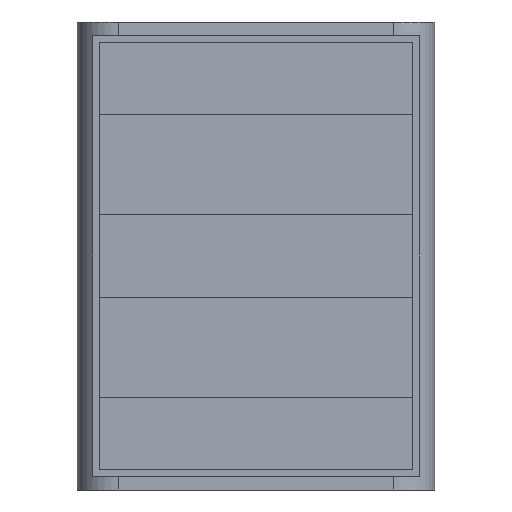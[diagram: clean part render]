
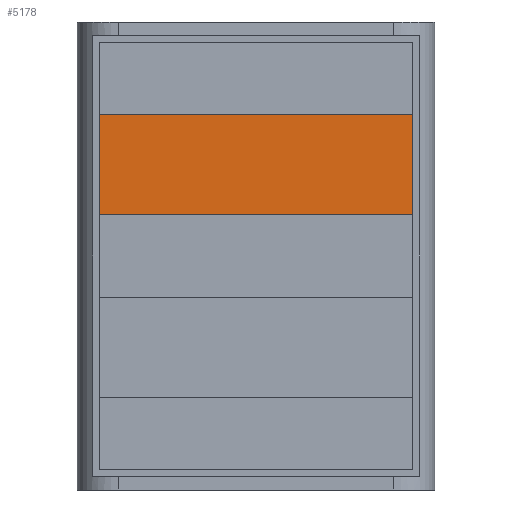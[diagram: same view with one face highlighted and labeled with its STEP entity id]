
A CAD part, front view. The second image highlights one B-rep face of the part: STEP entity #5178.
In plain terms, the highlighted planar face has unit normal (0, -1, 0).
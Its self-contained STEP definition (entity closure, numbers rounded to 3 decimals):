
#59 = EDGE_CURVE ( 'NONE', #3365, #1401, #747, .T. ) ;
#471 = EDGE_CURVE ( 'NONE', #4283, #3365, #4729, .T. ) ;
#747 = LINE ( 'NONE', #2933, #2067 ) ;
#776 = VERTEX_POINT ( 'NONE', #1581 ) ;
#871 = VECTOR ( 'NONE', #2035, 1000. ) ;
#957 = ORIENTED_EDGE ( 'NONE', *, *, #59, .T. ) ;
#999 = ORIENTED_EDGE ( 'NONE', *, *, #5874, .T. ) ;
#1192 = EDGE_CURVE ( 'NONE', #1401, #776, #4507, .T. ) ;
#1202 = CARTESIAN_POINT ( 'NONE',  ( -56.95, -17., 51.5 ) ) ;
#1401 = VERTEX_POINT ( 'NONE', #5841 ) ;
#1432 = VECTOR ( 'NONE', #2183, 1000. ) ;
#1581 = CARTESIAN_POINT ( 'NONE',  ( -56.95, -17., 15. ) ) ;
#2035 = DIRECTION ( 'NONE',  ( 0., 0., -1. ) ) ;
#2067 = VECTOR ( 'NONE', #3015, 1000. ) ;
#2077 = ORIENTED_EDGE ( 'NONE', *, *, #1192, .T. ) ;
#2183 = DIRECTION ( 'NONE',  ( 1., 0., 0. ) ) ;
#2608 = DIRECTION ( 'NONE',  ( 0., 0., -1. ) ) ;
#2631 = DIRECTION ( 'NONE',  ( 0., -1., 0. ) ) ;
#2649 = CARTESIAN_POINT ( 'NONE',  ( -56.95, -17., 15. ) ) ;
#2694 = CARTESIAN_POINT ( 'NONE',  ( 0., -17., 0. ) ) ;
#2718 = PLANE ( 'NONE',  #2951 ) ;
#2871 = ORIENTED_EDGE ( 'NONE', *, *, #471, .T. ) ;
#2933 = CARTESIAN_POINT ( 'NONE',  ( -56.95, -17., 51.5 ) ) ;
#2951 = AXIS2_PLACEMENT_3D ( 'NONE', #2694, #2631, #2608 ) ;
#3015 = DIRECTION ( 'NONE',  ( -1., 0., 0. ) ) ;
#3048 = FACE_OUTER_BOUND ( 'NONE', #3491, .T. ) ;
#3365 = VERTEX_POINT ( 'NONE', #3656 ) ;
#3491 = EDGE_LOOP ( 'NONE', ( #2077, #999, #2871, #957 ) ) ;
#3624 = DIRECTION ( 'NONE',  ( 0., 0., 1. ) ) ;
#3656 = CARTESIAN_POINT ( 'NONE',  ( 56.95, -17., 51.5 ) ) ;
#3676 = CARTESIAN_POINT ( 'NONE',  ( 56.95, -17., 51.5 ) ) ;
#3840 = LINE ( 'NONE', #2649, #1432 ) ;
#4015 = CARTESIAN_POINT ( 'NONE',  ( 56.95, -17., 15. ) ) ;
#4283 = VERTEX_POINT ( 'NONE', #4015 ) ;
#4507 = LINE ( 'NONE', #1202, #871 ) ;
#4595 = VECTOR ( 'NONE', #3624, 1000. ) ;
#4729 = LINE ( 'NONE', #3676, #4595 ) ;
#5178 = ADVANCED_FACE ( 'NONE', ( #3048 ), #2718, .T. ) ;
#5841 = CARTESIAN_POINT ( 'NONE',  ( -56.95, -17., 51.5 ) ) ;
#5874 = EDGE_CURVE ( 'NONE', #776, #4283, #3840, .T. ) ;
